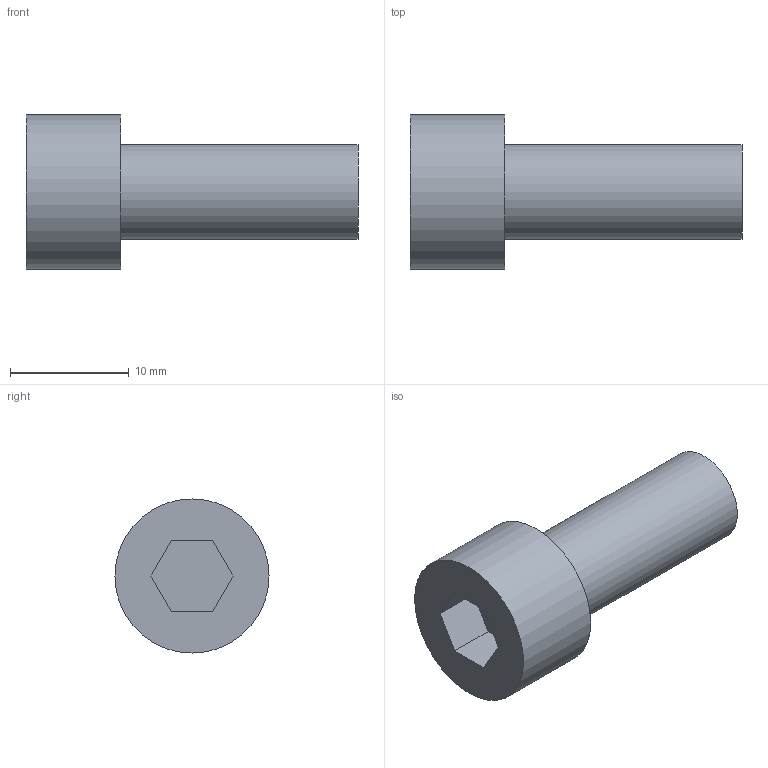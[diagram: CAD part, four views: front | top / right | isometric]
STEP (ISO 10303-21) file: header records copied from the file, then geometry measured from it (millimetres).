
FILE_DESCRIPTION(('Open CASCADE Model'),'2;1');
FILE_NAME('Open CASCADE Shape Model','2026-10-05T09:55:41',('Author'),( 'Open CASCADE'),'Open CASCADE STEP processor 7.9','Open CASCADE 7.9' ,'Unknown');
FILE_SCHEMA(('AUTOMOTIVE_DESIGN { 1 0 10303 214 1 1 1 1 }'));
Length unit declared in the file: millimetre
Products named in the file (1): Open CASCADE STEP translator 7.9 3
Bounding box: 28 x 13 x 13 mm (x, y, z)
Volume: 1942.5 mm3; surface area: 1178 mm2
Topology: 1 solids, 1 shells, 12 faces, 24 edges, 16 vertices
Faces by surface type: plane 10, cylinder 2
Full cylindrical faces by diameter (mm): 8 x1, 13 x1
Entity records: 634 total; most frequent: DIRECTION 102, CARTESIAN_POINT 101, LINE 64, VECTOR 64, ORIENTED_EDGE 48, PCURVE 48, DEFINITIONAL_REPRESENTATION 48, EDGE_CURVE 24
